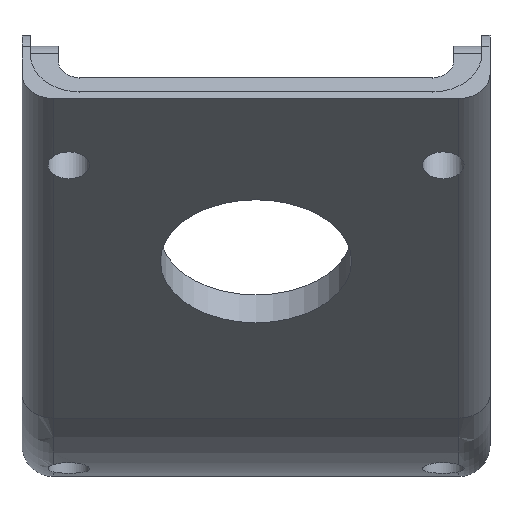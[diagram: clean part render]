
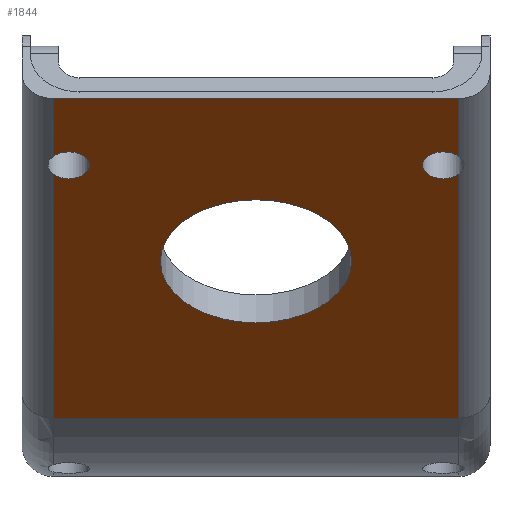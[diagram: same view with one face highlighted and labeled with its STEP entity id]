
A CAD part, front view. The second image highlights one B-rep face of the part: STEP entity #1844.
In plain terms, the highlighted planar face has unit normal (0, -0.643, -0.766).
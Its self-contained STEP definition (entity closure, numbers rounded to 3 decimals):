
#90=FACE_BOUND('',#293,.T.);
#116=PLANE('',#2037);
#169=FACE_OUTER_BOUND('',#292,.T.);
#292=EDGE_LOOP('',(#1394,#1395,#1396,#1397,#1398,#1399,#1400,#1401,#1402));
#293=EDGE_LOOP('',(#1403));
#430=LINE('',#3139,#551);
#436=LINE('',#3196,#557);
#437=LINE('',#3210,#558);
#438=LINE('',#3214,#559);
#439=LINE('',#3218,#560);
#440=LINE('',#3219,#561);
#551=VECTOR('',#2384,10.);
#557=VECTOR('',#2418,10.);
#558=VECTOR('',#2419,10.);
#559=VECTOR('',#2424,10.);
#560=VECTOR('',#2427,10.);
#561=VECTOR('',#2428,10.);
#682=CIRCLE('',#2038,2.);
#683=CIRCLE('',#2039,2.);
#684=CIRCLE('',#2040,2.);
#685=CIRCLE('',#2041,9.2);
#832=VERTEX_POINT('',#3136);
#833=VERTEX_POINT('',#3138);
#846=VERTEX_POINT('',#3195);
#847=VERTEX_POINT('',#3197);
#848=VERTEX_POINT('',#3209);
#849=VERTEX_POINT('',#3213);
#850=VERTEX_POINT('',#3215);
#851=VERTEX_POINT('',#3217);
#852=VERTEX_POINT('',#3220);
#853=VERTEX_POINT('',#3223);
#1034=EDGE_CURVE('',#832,#833,#430,.T.);
#1053=EDGE_CURVE('',#833,#846,#436,.T.);
#1055=EDGE_CURVE('',#847,#848,#437,.T.);
#1057=EDGE_CURVE('',#849,#832,#438,.T.);
#1058=EDGE_CURVE('',#849,#850,#682,.F.);
#1059=EDGE_CURVE('',#851,#850,#439,.T.);
#1060=EDGE_CURVE('',#848,#851,#440,.F.);
#1061=EDGE_CURVE('',#847,#852,#683,.F.);
#1062=EDGE_CURVE('',#852,#846,#684,.F.);
#1063=EDGE_CURVE('',#853,#853,#685,.T.);
#1394=ORIENTED_EDGE('',*,*,#1034,.F.);
#1395=ORIENTED_EDGE('',*,*,#1057,.F.);
#1396=ORIENTED_EDGE('',*,*,#1058,.T.);
#1397=ORIENTED_EDGE('',*,*,#1059,.F.);
#1398=ORIENTED_EDGE('',*,*,#1060,.F.);
#1399=ORIENTED_EDGE('',*,*,#1055,.F.);
#1400=ORIENTED_EDGE('',*,*,#1061,.T.);
#1401=ORIENTED_EDGE('',*,*,#1062,.T.);
#1402=ORIENTED_EDGE('',*,*,#1053,.F.);
#1403=ORIENTED_EDGE('',*,*,#1063,.T.);
#1844=ADVANCED_FACE('',(#169,#90),#116,.T.);
#2037=AXIS2_PLACEMENT_3D('',#3212,#2422,#2423);
#2038=AXIS2_PLACEMENT_3D('',#3216,#2425,#2426);
#2039=AXIS2_PLACEMENT_3D('',#3221,#2429,#2430);
#2040=AXIS2_PLACEMENT_3D('',#3222,#2431,#2432);
#2041=AXIS2_PLACEMENT_3D('',#3224,#2433,#2434);
#2384=DIRECTION('',(-1.,0.,0.));
#2418=DIRECTION('',(0.,-0.766,0.643));
#2419=DIRECTION('',(0.,-0.766,0.643));
#2422=DIRECTION('center_axis',(0.,-0.643,-0.766));
#2423=DIRECTION('ref_axis',(0.,0.766,-0.643));
#2424=DIRECTION('',(0.,0.766,-0.643));
#2425=DIRECTION('center_axis',(0.,-0.643,-0.766));
#2426=DIRECTION('ref_axis',(-1.,0.,0.));
#2427=DIRECTION('',(0.,0.766,-0.643));
#2428=DIRECTION('',(-1.,0.,0.));
#2429=DIRECTION('center_axis',(0.,-0.643,-0.766));
#2430=DIRECTION('ref_axis',(-1.,0.,0.));
#2431=DIRECTION('center_axis',(0.,-0.643,-0.766));
#2432=DIRECTION('ref_axis',(-1.,0.,0.));
#2433=DIRECTION('center_axis',(0.,0.643,0.766));
#2434=DIRECTION('ref_axis',(1.,0.,0.));
#3136=CARTESIAN_POINT('',(40.5,42.816,-59.885));
#3138=CARTESIAN_POINT('',(1.5,42.816,-59.885));
#3139=CARTESIAN_POINT('',(0.,42.816,-59.885));
#3195=CARTESIAN_POINT('',(1.5,14.854,-36.422));
#3196=CARTESIAN_POINT('',(1.5,12.794,-34.694));
#3197=CARTESIAN_POINT('',(1.5,12.827,-34.721));
#3209=CARTESIAN_POINT('',(1.5,6.18,-29.144));
#3210=CARTESIAN_POINT('',(1.5,12.794,-34.694));
#3212=CARTESIAN_POINT('Origin',(0.,-0.964,-23.149));
#3213=CARTESIAN_POINT('',(40.5,14.854,-36.422));
#3214=CARTESIAN_POINT('',(40.5,12.794,-34.694));
#3215=CARTESIAN_POINT('',(40.5,12.827,-34.721));
#3216=CARTESIAN_POINT('Origin',(39.,13.841,-35.572));
#3217=CARTESIAN_POINT('',(40.5,6.18,-29.144));
#3218=CARTESIAN_POINT('',(40.5,12.794,-34.694));
#3219=CARTESIAN_POINT('',(21.,6.18,-29.144));
#3220=CARTESIAN_POINT('',(5.,13.841,-35.572));
#3221=CARTESIAN_POINT('Origin',(3.,13.841,-35.572));
#3222=CARTESIAN_POINT('Origin',(3.,13.841,-35.572));
#3223=CARTESIAN_POINT('',(11.8,24.847,-44.807));
#3224=CARTESIAN_POINT('Origin',(21.,24.847,-44.807));
